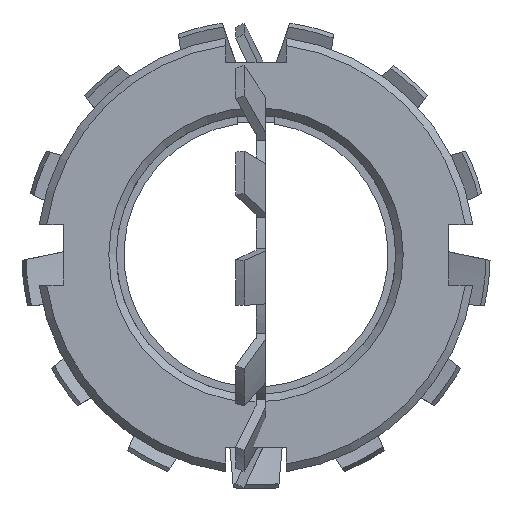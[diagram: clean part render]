
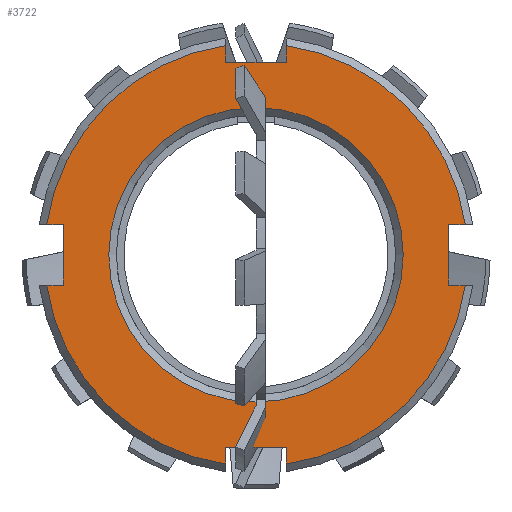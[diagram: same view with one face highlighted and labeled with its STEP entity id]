
A CAD part, front view. The second image highlights one B-rep face of the part: STEP entity #3722.
In plain terms, the highlighted planar face has unit normal (0, -1, 0).
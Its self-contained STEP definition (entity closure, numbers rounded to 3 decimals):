
#3722 = ADVANCED_FACE( '', ( #5021, #5022 ), #5023, .F. );
#5021 = FACE_BOUND( '', #5183, .T. );
#5022 = FACE_OUTER_BOUND( '', #5184, .T. );
#5023 = PLANE( '', #5185 );
#5183 = EDGE_LOOP( '', ( #5478 ) );
#5184 = EDGE_LOOP( '', ( #5479, #5480, #5481, #5482, #5483, #5484, #5485, #5486, #5487, #5488, #5489, #5490, #5491, #5492, #5493, #5494 ) );
#5185 = AXIS2_PLACEMENT_3D( '', #5495, #5496, #5497 );
#5478 = ORIENTED_EDGE( '', *, *, #5724, .F. );
#5479 = ORIENTED_EDGE( '', *, *, #5702, .F. );
#5480 = ORIENTED_EDGE( '', *, *, #5749, .T. );
#5481 = ORIENTED_EDGE( '', *, *, #5695, .T. );
#5482 = ORIENTED_EDGE( '', *, *, #5750, .T. );
#5483 = ORIENTED_EDGE( '', *, *, #5729, .F. );
#5484 = ORIENTED_EDGE( '', *, *, #5726, .T. );
#5485 = ORIENTED_EDGE( '', *, *, #5751, .T. );
#5486 = ORIENTED_EDGE( '', *, *, #5752, .T. );
#5487 = ORIENTED_EDGE( '', *, *, #5735, .F. );
#5488 = ORIENTED_EDGE( '', *, *, #5741, .T. );
#5489 = ORIENTED_EDGE( '', *, *, #5731, .T. );
#5490 = ORIENTED_EDGE( '', *, *, #5693, .T. );
#5491 = ORIENTED_EDGE( '', *, *, #5743, .F. );
#5492 = ORIENTED_EDGE( '', *, *, #5744, .T. );
#5493 = ORIENTED_EDGE( '', *, *, #5739, .T. );
#5494 = ORIENTED_EDGE( '', *, *, #5753, .T. );
#5495 = CARTESIAN_POINT( '', ( 0., -12.75, 29. ) );
#5496 = DIRECTION( '', ( 0., 1., 0. ) );
#5497 = DIRECTION( '', ( 0., 0., 1. ) );
#5693 = EDGE_CURVE( '', #5801, #5803, #5805, .F. );
#5695 = EDGE_CURVE( '', #5809, #5807, #5810, .T. );
#5702 = EDGE_CURVE( '', #5821, #5823, #5824, .T. );
#5724 = EDGE_CURVE( '', #5862, #5862, #5863, .T. );
#5726 = EDGE_CURVE( '', #5866, #5864, #5867, .T. );
#5729 = EDGE_CURVE( '', #5866, #5871, #5872, .T. );
#5731 = EDGE_CURVE( '', #5874, #5801, #5875, .T. );
#5735 = EDGE_CURVE( '', #5879, #5881, #5882, .T. );
#5739 = EDGE_CURVE( '', #5888, #5886, #5889, .T. );
#5741 = EDGE_CURVE( '', #5879, #5874, #5891, .T. );
#5743 = EDGE_CURVE( '', #5892, #5803, #5894, .T. );
#5744 = EDGE_CURVE( '', #5892, #5888, #5895, .T. );
#5749 = EDGE_CURVE( '', #5821, #5809, #5901, .T. );
#5750 = EDGE_CURVE( '', #5807, #5871, #5902, .F. );
#5751 = EDGE_CURVE( '', #5864, #5903, #5904, .T. );
#5752 = EDGE_CURVE( '', #5903, #5881, #5905, .F. );
#5753 = EDGE_CURVE( '', #5886, #5823, #5906, .F. );
#5801 = VERTEX_POINT( '', #5975 );
#5803 = VERTEX_POINT( '', #5983 );
#5805 = CIRCLE( '', #5991, 28. );
#5807 = VERTEX_POINT( '', #5993 );
#5809 = VERTEX_POINT( '', #6001 );
#5810 = LINE( '', #6002, #6003 );
#5821 = VERTEX_POINT( '', #6023 );
#5823 = VERTEX_POINT( '', #6026 );
#5824 = LINE( '', #6027, #6028 );
#5862 = VERTEX_POINT( '', #6120 );
#5863 = CIRCLE( '', #6121, 19.5 );
#5864 = VERTEX_POINT( '', #6122 );
#5866 = VERTEX_POINT( '', #6125 );
#5867 = LINE( '', #6126, #6127 );
#5871 = VERTEX_POINT( '', #6133 );
#5872 = LINE( '', #6134, #6135 );
#5874 = VERTEX_POINT( '', #6143 );
#5875 = LINE( '', #6144, #6145 );
#5879 = VERTEX_POINT( '', #6151 );
#5881 = VERTEX_POINT( '', #6154 );
#5882 = LINE( '', #6155, #6156 );
#5886 = VERTEX_POINT( '', #6167 );
#5888 = VERTEX_POINT( '', #6175 );
#5889 = LINE( '', #6176, #6177 );
#5891 = LINE( '', #6180, #6181 );
#5892 = VERTEX_POINT( '', #6182 );
#5894 = LINE( '', #6185, #6186 );
#5895 = LINE( '', #6187, #6188 );
#5901 = LINE( '', #6196, #6197 );
#5902 = CIRCLE( '', #6198, 28. );
#5903 = VERTEX_POINT( '', #6199 );
#5904 = LINE( '', #6200, #6201 );
#5905 = CIRCLE( '', #6202, 28. );
#5906 = CIRCLE( '', #6203, 28. );
#5975 = CARTESIAN_POINT( '', ( 27.713, -12.75, 4. ) );
#5983 = CARTESIAN_POINT( '', ( 4., -12.75, 27.713 ) );
#5991 = AXIS2_PLACEMENT_3D( '', #6260, #6261, #6262 );
#5993 = CARTESIAN_POINT( '', ( -27.713, -12.75, -4. ) );
#6001 = CARTESIAN_POINT( '', ( -25.5, -12.75, -4. ) );
#6002 = CARTESIAN_POINT( '', ( -29., -12.75, -4. ) );
#6003 = VECTOR( '', #6263, 1000. );
#6023 = CARTESIAN_POINT( '', ( -25.5, -12.75, 4. ) );
#6026 = CARTESIAN_POINT( '', ( -27.713, -12.75, 4. ) );
#6027 = CARTESIAN_POINT( '', ( -29., -12.75, 4. ) );
#6028 = VECTOR( '', #6268, 1000. );
#6120 = CARTESIAN_POINT( '', ( 0., -12.75, -19.5 ) );
#6121 = AXIS2_PLACEMENT_3D( '', #6295, #6296, #6297 );
#6122 = CARTESIAN_POINT( '', ( 4., -12.75, -25.5 ) );
#6125 = CARTESIAN_POINT( '', ( -4., -12.75, -25.5 ) );
#6126 = CARTESIAN_POINT( '', ( -4., -12.75, -25.5 ) );
#6127 = VECTOR( '', #6299, 1000. );
#6133 = CARTESIAN_POINT( '', ( -4., -12.75, -27.713 ) );
#6134 = CARTESIAN_POINT( '', ( -4., -12.75, -29. ) );
#6135 = VECTOR( '', #6302, 1000. );
#6143 = CARTESIAN_POINT( '', ( 25.5, -12.75, 4. ) );
#6144 = CARTESIAN_POINT( '', ( 29., -12.75, 4. ) );
#6145 = VECTOR( '', #6303, 1000. );
#6151 = CARTESIAN_POINT( '', ( 25.5, -12.75, -4. ) );
#6154 = CARTESIAN_POINT( '', ( 27.713, -12.75, -4. ) );
#6155 = CARTESIAN_POINT( '', ( 29., -12.75, -4. ) );
#6156 = VECTOR( '', #6307, 1000. );
#6167 = CARTESIAN_POINT( '', ( -4., -12.75, 27.713 ) );
#6175 = CARTESIAN_POINT( '', ( -4., -12.75, 25.5 ) );
#6176 = CARTESIAN_POINT( '', ( -4., -12.75, 29. ) );
#6177 = VECTOR( '', #6309, 1000. );
#6180 = CARTESIAN_POINT( '', ( 25.5, -12.75, -4. ) );
#6181 = VECTOR( '', #6311, 1000. );
#6182 = CARTESIAN_POINT( '', ( 4., -12.75, 25.5 ) );
#6185 = CARTESIAN_POINT( '', ( 4., -12.75, 29. ) );
#6186 = VECTOR( '', #6313, 1000. );
#6187 = CARTESIAN_POINT( '', ( 4., -12.75, 25.5 ) );
#6188 = VECTOR( '', #6314, 1000. );
#6196 = CARTESIAN_POINT( '', ( -25.5, -12.75, 4. ) );
#6197 = VECTOR( '', #6323, 1000. );
#6198 = AXIS2_PLACEMENT_3D( '', #6324, #6325, #6326 );
#6199 = CARTESIAN_POINT( '', ( 4., -12.75, -27.713 ) );
#6200 = CARTESIAN_POINT( '', ( 4., -12.75, -29. ) );
#6201 = VECTOR( '', #6327, 1000. );
#6202 = AXIS2_PLACEMENT_3D( '', #6328, #6329, #6330 );
#6203 = AXIS2_PLACEMENT_3D( '', #6331, #6332, #6333 );
#6260 = CARTESIAN_POINT( '', ( 0., -12.75, 0. ) );
#6261 = DIRECTION( '', ( 0., 1., 0. ) );
#6262 = DIRECTION( '', ( 0., 0., 1. ) );
#6263 = DIRECTION( '', ( -1., 0., 0. ) );
#6268 = DIRECTION( '', ( -1., 0., 0. ) );
#6295 = CARTESIAN_POINT( '', ( 0., -12.75, 0. ) );
#6296 = DIRECTION( '', ( 0., -1., 0. ) );
#6297 = DIRECTION( '', ( 0., 0., -1. ) );
#6299 = DIRECTION( '', ( 1., 0., 0. ) );
#6302 = DIRECTION( '', ( 0., 0., -1. ) );
#6303 = DIRECTION( '', ( 1., 0., 0. ) );
#6307 = DIRECTION( '', ( 1., 0., 0. ) );
#6309 = DIRECTION( '', ( 0., 0., 1. ) );
#6311 = DIRECTION( '', ( 0., 0., 1. ) );
#6313 = DIRECTION( '', ( 0., 0., 1. ) );
#6314 = DIRECTION( '', ( -1., 0., 0. ) );
#6323 = DIRECTION( '', ( 0., 0., -1. ) );
#6324 = CARTESIAN_POINT( '', ( 0., -12.75, 0. ) );
#6325 = DIRECTION( '', ( 0., 1., 0. ) );
#6326 = DIRECTION( '', ( 0., 0., 1. ) );
#6327 = DIRECTION( '', ( 0., 0., -1. ) );
#6328 = CARTESIAN_POINT( '', ( 0., -12.75, 0. ) );
#6329 = DIRECTION( '', ( 0., 1., 0. ) );
#6330 = DIRECTION( '', ( 0., 0., 1. ) );
#6331 = CARTESIAN_POINT( '', ( 0., -12.75, 0. ) );
#6332 = DIRECTION( '', ( 0., 1., 0. ) );
#6333 = DIRECTION( '', ( 0., 0., 1. ) );
